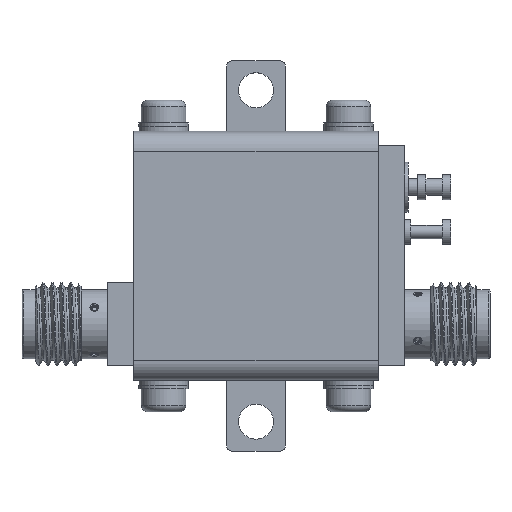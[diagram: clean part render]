
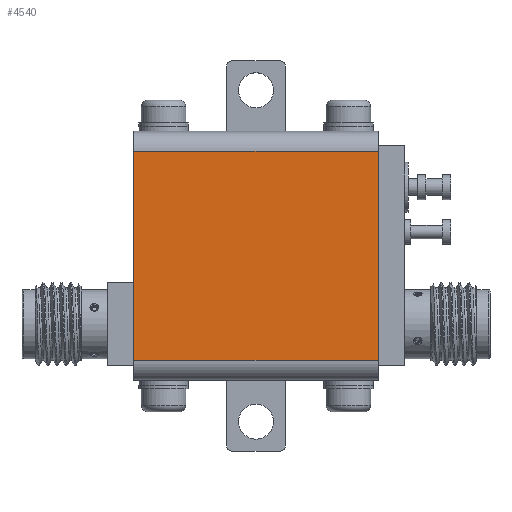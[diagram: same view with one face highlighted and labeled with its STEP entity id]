
A CAD part, top view. The second image highlights one B-rep face of the part: STEP entity #4540.
In plain terms, the highlighted planar face has unit normal (0, 0, 1).
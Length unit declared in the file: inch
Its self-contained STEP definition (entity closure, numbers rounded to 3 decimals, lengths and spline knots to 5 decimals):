
#234=PLANE('',#4991);
#548=FACE_OUTER_BOUND('',#840,.T.);
#840=EDGE_LOOP('',(#3883,#3884,#3885,#3886));
#1430=LINE('',#9852,#1696);
#1437=LINE('',#9868,#1703);
#1442=LINE('',#9880,#1708);
#1443=LINE('',#9882,#1709);
#1696=VECTOR('',#6066,1.);
#1703=VECTOR('',#6079,1.);
#1708=VECTOR('',#6090,1.);
#1709=VECTOR('',#6093,1.);
#2103=VERTEX_POINT('',#9849);
#2104=VERTEX_POINT('',#9851);
#2109=VERTEX_POINT('',#9865);
#2110=VERTEX_POINT('',#9867);
#2721=EDGE_CURVE('',#2103,#2104,#1430,.T.);
#2730=EDGE_CURVE('',#2110,#2109,#1437,.T.);
#2736=EDGE_CURVE('',#2109,#2104,#1442,.T.);
#2737=EDGE_CURVE('',#2110,#2103,#1443,.T.);
#3883=ORIENTED_EDGE('',*,*,#2730,.T.);
#3884=ORIENTED_EDGE('',*,*,#2736,.T.);
#3885=ORIENTED_EDGE('',*,*,#2721,.F.);
#3886=ORIENTED_EDGE('',*,*,#2737,.F.);
#4540=ADVANCED_FACE('',(#548),#234,.T.);
#4991=AXIS2_PLACEMENT_3D('',#9881,#6091,#6092);
#6066=DIRECTION('',(0.,1.,0.));
#6079=DIRECTION('',(0.,1.,0.));
#6090=DIRECTION('',(-1.,0.,0.));
#6091=DIRECTION('center_axis',(0.,0.,
1.));
#6092=DIRECTION('ref_axis',(0.,1.,0.));
#6093=DIRECTION('',(-1.,0.,0.));
#9849=CARTESIAN_POINT('',(0.,0.06,0.457));
#9851=CARTESIAN_POINT('',(0.,0.694,0.457));
#9852=CARTESIAN_POINT('',(0.,0.06,0.457));
#9865=CARTESIAN_POINT('',(0.74,0.694,0.457));
#9867=CARTESIAN_POINT('',(0.74,0.06,0.457));
#9868=CARTESIAN_POINT('',(0.74,0.06,0.457));
#9880=CARTESIAN_POINT('',(0.74,0.694,0.457));
#9881=CARTESIAN_POINT('Origin',(0.74,0.06,0.457));
#9882=CARTESIAN_POINT('',(0.74,0.06,0.457));
